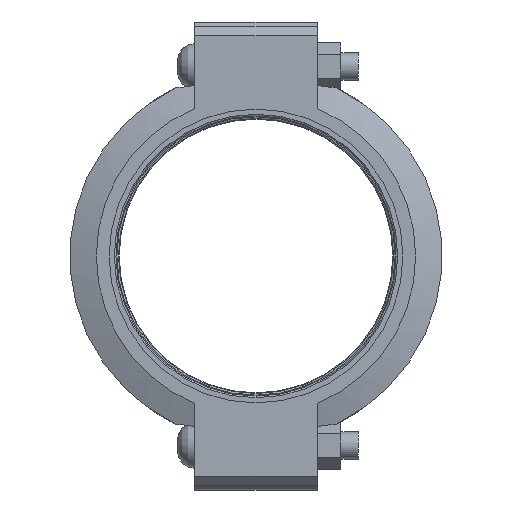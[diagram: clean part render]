
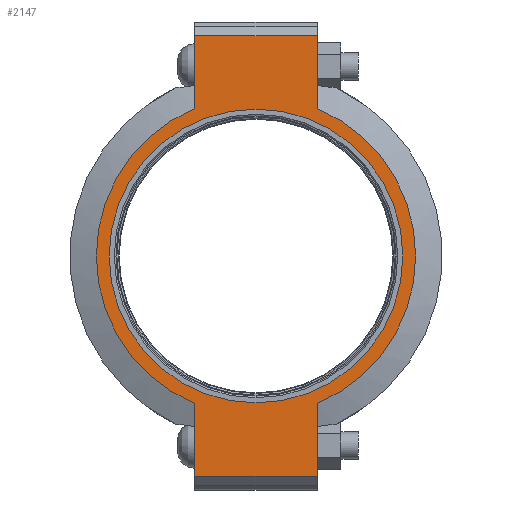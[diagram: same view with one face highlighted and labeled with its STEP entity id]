
A CAD part, left-side view. The second image highlights one B-rep face of the part: STEP entity #2147.
In plain terms, the highlighted planar face has unit normal (-1, 0, 0) as drawn and (0, 0, 1) by its records, which use the part's own axes.
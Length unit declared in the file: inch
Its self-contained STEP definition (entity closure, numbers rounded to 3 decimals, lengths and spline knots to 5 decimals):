
#200=LINE('',#3801,#295);
#211=LINE('',#3852,#306);
#217=LINE('',#3878,#312);
#219=LINE('',#3881,#314);
#220=LINE('',#3886,#315);
#221=LINE('',#3887,#316);
#295=VECTOR('',#3110,0.3937);
#306=VECTOR('',#3141,0.3937);
#312=VECTOR('',#3159,0.3937);
#314=VECTOR('',#3163,0.3937);
#315=VECTOR('',#3168,0.3937);
#316=VECTOR('',#3169,0.3937);
#383=FACE_BOUND('',#656,.T.);
#428=PLANE('',#2519);
#523=FACE_OUTER_BOUND('',#655,.T.);
#655=EDGE_LOOP('',(#1828,#1829,#1830,#1831,#1832,#1833,#1834,#1835));
#656=EDGE_LOOP('',(#1836));
#817=CIRCLE('',#2468,5.375);
#841=CIRCLE('',#2520,5.845);
#842=CIRCLE('',#2521,5.845);
#976=VERTEX_POINT('',#3627);
#1017=VERTEX_POINT('',#3798);
#1018=VERTEX_POINT('',#3800);
#1035=VERTEX_POINT('',#3847);
#1036=VERTEX_POINT('',#3851);
#1043=VERTEX_POINT('',#3873);
#1044=VERTEX_POINT('',#3877);
#1045=VERTEX_POINT('',#3883);
#1046=VERTEX_POINT('',#3885);
#1225=EDGE_CURVE('',#976,#976,#817,.T.);
#1282=EDGE_CURVE('',#1018,#1017,#200,.T.);
#1303=EDGE_CURVE('',#1036,#1035,#211,.T.);
#1314=EDGE_CURVE('',#1044,#1043,#217,.T.);
#1316=EDGE_CURVE('',#1044,#1017,#219,.T.);
#1317=EDGE_CURVE('',#1043,#1045,#841,.T.);
#1318=EDGE_CURVE('',#1045,#1046,#220,.T.);
#1319=EDGE_CURVE('',#1036,#1046,#221,.T.);
#1320=EDGE_CURVE('',#1035,#1018,#842,.T.);
#1828=ORIENTED_EDGE('',*,*,#1316,.F.);
#1829=ORIENTED_EDGE('',*,*,#1314,.T.);
#1830=ORIENTED_EDGE('',*,*,#1317,.T.);
#1831=ORIENTED_EDGE('',*,*,#1318,.T.);
#1832=ORIENTED_EDGE('',*,*,#1319,.F.);
#1833=ORIENTED_EDGE('',*,*,#1303,.T.);
#1834=ORIENTED_EDGE('',*,*,#1320,.T.);
#1835=ORIENTED_EDGE('',*,*,#1282,.T.);
#1836=ORIENTED_EDGE('',*,*,#1225,.T.);
#2147=ADVANCED_FACE('',(#523,#383),#428,.T.);
#2468=AXIS2_PLACEMENT_3D('',#3629,#3000,#3001);
#2519=AXIS2_PLACEMENT_3D('',#3882,#3164,#3165);
#2520=AXIS2_PLACEMENT_3D('',#3884,#3166,#3167);
#2521=AXIS2_PLACEMENT_3D('',#3888,#3170,#3171);
#3000=DIRECTION('center_axis',(0.,0.,-1.));
#3001=DIRECTION('ref_axis',(1.,0.,0.));
#3110=DIRECTION('',(1.,0.,0.));
#3141=DIRECTION('',(1.,0.,0.));
#3159=DIRECTION('',(-1.,0.,0.));
#3163=DIRECTION('',(0.,-1.,0.));
#3164=DIRECTION('center_axis',(0.,0.,1.));
#3165=DIRECTION('ref_axis',(-1.,0.,0.));
#3166=DIRECTION('center_axis',(0.,0.,1.));
#3167=DIRECTION('ref_axis',(1.,0.,0.));
#3168=DIRECTION('',(-1.,0.,0.));
#3169=DIRECTION('',(0.,1.,0.));
#3170=DIRECTION('center_axis',(0.,0.,1.));
#3171=DIRECTION('ref_axis',(1.,0.,0.));
#3627=CARTESIAN_POINT('',(-5.375,0.,1.315));
#3629=CARTESIAN_POINT('Origin',(0.,0.,1.315));
#3798=CARTESIAN_POINT('',(8.065,-2.25,1.315));
#3800=CARTESIAN_POINT('',(5.39458,-2.25,1.315));
#3801=CARTESIAN_POINT('',(-8.565,-2.25,1.315));
#3847=CARTESIAN_POINT('',(-5.39458,-2.25,1.315));
#3851=CARTESIAN_POINT('',(-8.065,-2.25,1.315));
#3852=CARTESIAN_POINT('',(-8.565,-2.25,1.315));
#3873=CARTESIAN_POINT('',(5.39458,2.25,1.315));
#3877=CARTESIAN_POINT('',(8.065,2.25,1.315));
#3878=CARTESIAN_POINT('',(8.565,2.25,1.315));
#3881=CARTESIAN_POINT('',(8.065,-1.125,1.315));
#3882=CARTESIAN_POINT('Origin',(0.,0.,
1.315));
#3883=CARTESIAN_POINT('',(-5.39458,2.25,1.315));
#3884=CARTESIAN_POINT('Origin',(0.,0.,1.315));
#3885=CARTESIAN_POINT('',(-8.065,2.25,1.315));
#3886=CARTESIAN_POINT('',(8.565,2.25,1.315));
#3887=CARTESIAN_POINT('',(-8.065,1.125,1.315));
#3888=CARTESIAN_POINT('Origin',(0.,0.,1.315));
